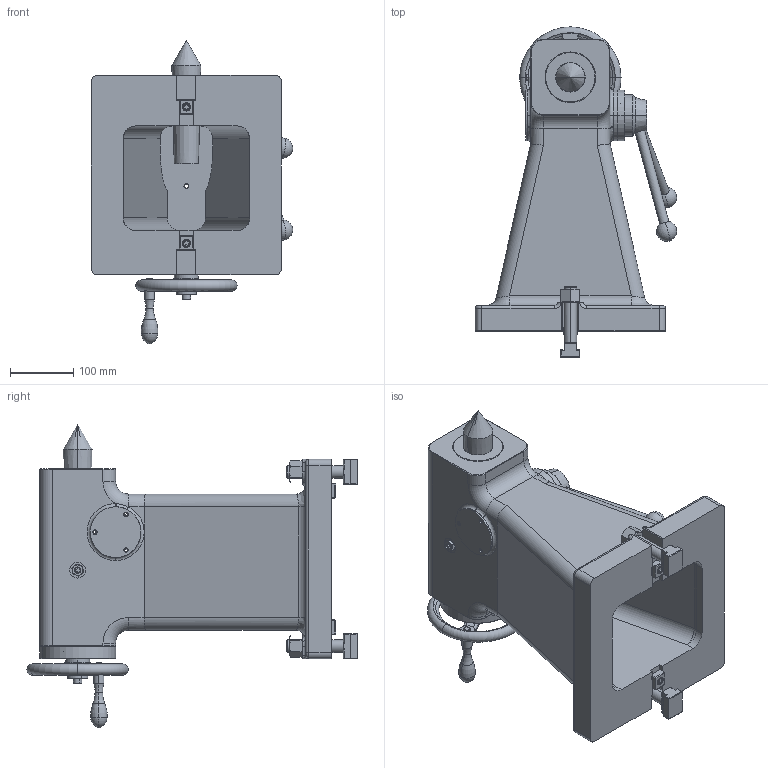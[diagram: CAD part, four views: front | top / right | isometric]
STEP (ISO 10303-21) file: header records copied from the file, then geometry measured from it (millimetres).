
FILE_DESCRIPTION (( 'STEP AP203' ), '1' );
FILE_NAME ('2520047 TC1000R-01.STEP', '2020-12-05T05:15:34', ( '' ), ( '' ), 'SwSTEP 2.0', 'SolidWorks 2019', '' );
FILE_SCHEMA (( 'CONFIG_CONTROL_DESIGN' ));
Length unit declared in the file: millimetre
Products named in the file (1): 2520047 TC1000R-01
Bounding box: 317.76 x 521 x 479.5 mm (x, y, z)
Surface area: 856329.3 mm2 (no closed solid volume)
Topology: 0 solids, 33 shells, 603 faces, 1687 edges, 1087 vertices
Faces by surface type: cylinder 216, plane 205, cone 64, torus 59, bspline 51, sphere 8
Entity records: 23307 total; most frequent: CARTESIAN_POINT 8210, DIRECTION 3190, ORIENTED_EDGE 2942, EDGE_CURVE 1666, AXIS2_PLACEMENT_3D 1262, VERTEX_POINT 1081, CIRCLE 709, EDGE_LOOP 700
